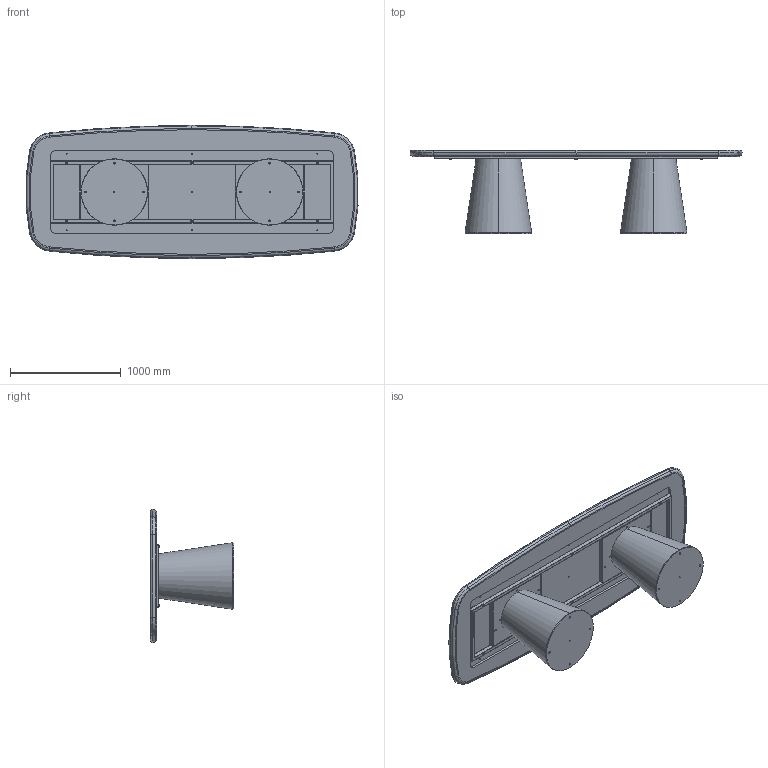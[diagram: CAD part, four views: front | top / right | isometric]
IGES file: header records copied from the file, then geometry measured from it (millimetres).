
Start section: SolidWorks IGES file using analytic representation for surfaces
Global section: file name: Y:\eforma\TECNICO\SOLIDWORKS\E-FORMA\1-TAVOLI\TEO\08 modelli 3D web\TO44K_Teo_300x120_King Shaped.IGS; native system: SolidWorks 2022; preprocessor: SolidWorks 2022; author: eforma.tech; date: 240802.114011; units: millimetre
Bounding box: 2991.72 x 749.19 x 1200 mm (x, y, z)
Volume: 206324590.6 mm3; surface area: 23319213.5 mm2
Topology: 29 solids, 29 shells, 1197 faces, 2738 edges, 1567 vertices
Faces by surface type: revolution 695, plane 502
